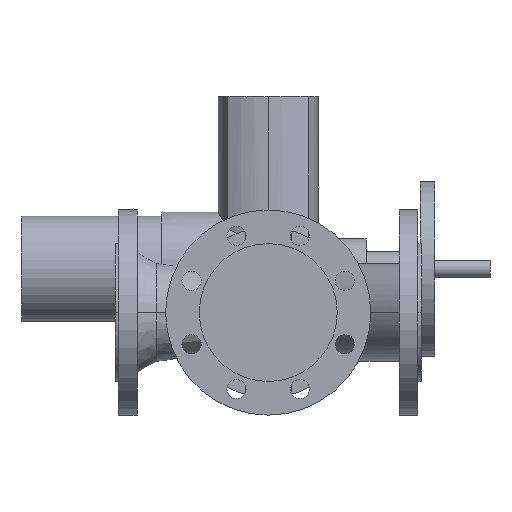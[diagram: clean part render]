
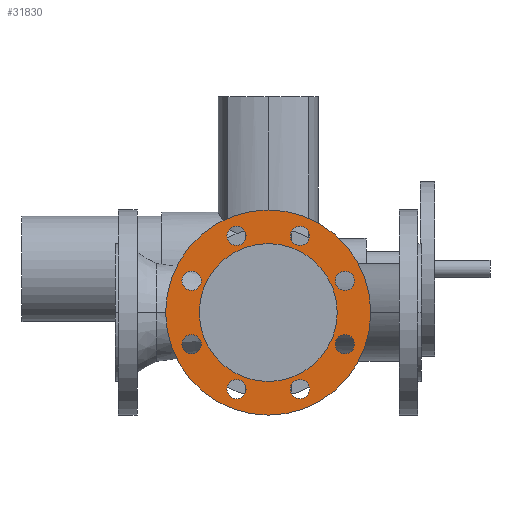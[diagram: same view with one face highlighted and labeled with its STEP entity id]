
A CAD part, front view. The second image highlights one B-rep face of the part: STEP entity #31830.
In plain terms, the highlighted planar face has unit normal (0, -1, 0).
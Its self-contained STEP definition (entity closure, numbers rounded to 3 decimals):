
#3500=CARTESIAN_POINT('',(96.,-146.5,0.));
#3510=VERTEX_POINT('',#3500);
#3560=CARTESIAN_POINT('',(175.,-146.5,0.));
#3570=DIRECTION('',(0.,-1.,0.));
#3580=DIRECTION('',(1.,0.,0.));
#3590=AXIS2_PLACEMENT_3D('',#3560,#3570,#3580);
#3600=CIRCLE('',#3590,79.);
#3610=CARTESIAN_POINT('',(254.,-146.5,0.));
#3620=VERTEX_POINT('',#3610);
#3630=EDGE_CURVE('',#3620,#3510,#3600,.T.);
#10490=CARTESIAN_POINT('',(292.5,-146.5,0.));
#10500=VERTEX_POINT('',#10490);
#10530=CARTESIAN_POINT('',(175.,-146.5,0.));
#10540=DIRECTION('',(0.,1.,0.));
#10550=DIRECTION('',(1.,0.,0.));
#10560=AXIS2_PLACEMENT_3D('',#10530,#10540,#10550);
#10570=CIRCLE('',#10560,117.5);
#10580=CARTESIAN_POINT('',(57.5,-146.5,0.));
#10590=VERTEX_POINT('',#10580);
#10600=EDGE_CURVE('',#10590,#10500,#10570,.T.);
#10910=CARTESIAN_POINT('',(251.769,-146.5,-36.355));
#10920=VERTEX_POINT('',#10910);
#11080=CARTESIAN_POINT('',(273.769,-146.5,-36.355));
#11090=VERTEX_POINT('',#11080);
#11120=CARTESIAN_POINT('',(262.769,-146.5,-36.355));
#11130=DIRECTION('',(0.,1.,0.));
#11140=DIRECTION('',(1.,0.,0.));
#11150=AXIS2_PLACEMENT_3D('',#11120,#11130,#11140);
#11160=CIRCLE('',#11150,11.);
#11170=EDGE_CURVE('',#11090,#10920,#11160,.T.);
#11330=CARTESIAN_POINT('',(251.769,-146.5,36.355));
#11340=VERTEX_POINT('',#11330);
#11370=CARTESIAN_POINT('',(262.769,-146.5,36.355));
#11380=DIRECTION('',(0.,1.,0.));
#11390=DIRECTION('',(1.,0.,0.));
#11400=AXIS2_PLACEMENT_3D('',#11370,#11380,#11390);
#11410=CIRCLE('',#11400,11.);
#11420=CARTESIAN_POINT('',(273.769,-146.5,36.355));
#11430=VERTEX_POINT('',#11420);
#11440=EDGE_CURVE('',#11340,#11430,#11410,.T.);
#11750=CARTESIAN_POINT('',(222.355,-146.5,-87.769));
#11760=VERTEX_POINT('',#11750);
#11920=CARTESIAN_POINT('',(200.355,-146.5,-87.769));
#11930=VERTEX_POINT('',#11920);
#11960=CARTESIAN_POINT('',(211.355,-146.5,-87.769));
#11970=DIRECTION('',(0.,1.,0.));
#11980=DIRECTION('',(1.,0.,0.));
#11990=AXIS2_PLACEMENT_3D('',#11960,#11970,#11980);
#12000=CIRCLE('',#11990,11.);
#12010=EDGE_CURVE('',#11930,#11760,#12000,.T.);
#12170=CARTESIAN_POINT('',(200.355,-146.5,87.769));
#12180=VERTEX_POINT('',#12170);
#12340=CARTESIAN_POINT('',(222.355,-146.5,87.769));
#12350=VERTEX_POINT('',#12340);
#12380=CARTESIAN_POINT('',(211.355,-146.5,87.769));
#12390=DIRECTION('',(0.,1.,0.));
#12400=DIRECTION('',(1.,0.,0.));
#12410=AXIS2_PLACEMENT_3D('',#12380,#12390,#12400);
#12420=CIRCLE('',#12410,11.);
#12430=EDGE_CURVE('',#12350,#12180,#12420,.T.);
#12590=CARTESIAN_POINT('',(149.645,-146.5,-87.769));
#12600=VERTEX_POINT('',#12590);
#12760=CARTESIAN_POINT('',(127.645,-146.5,-87.769));
#12770=VERTEX_POINT('',#12760);
#12800=CARTESIAN_POINT('',(138.645,-146.5,-87.769));
#12810=DIRECTION('',(0.,1.,0.));
#12820=DIRECTION('',(1.,0.,0.));
#12830=AXIS2_PLACEMENT_3D('',#12800,#12810,#12820);
#12840=CIRCLE('',#12830,11.);
#12850=EDGE_CURVE('',#12770,#12600,#12840,.T.);
#13010=CARTESIAN_POINT('',(149.645,-146.5,87.769));
#13020=VERTEX_POINT('',#13010);
#13180=CARTESIAN_POINT('',(127.645,-146.5,87.769));
#13190=VERTEX_POINT('',#13180);
#13220=CARTESIAN_POINT('',(138.645,-146.5,87.769));
#13230=DIRECTION('',(0.,1.,0.));
#13240=DIRECTION('',(1.,0.,0.));
#13250=AXIS2_PLACEMENT_3D('',#13220,#13230,#13240);
#13260=CIRCLE('',#13250,11.);
#13270=EDGE_CURVE('',#13190,#13020,#13260,.T.);
#13430=CARTESIAN_POINT('',(98.231,-146.5,-36.355));
#13440=VERTEX_POINT('',#13430);
#13470=CARTESIAN_POINT('',(87.231,-146.5,-36.355));
#13480=DIRECTION('',(0.,1.,0.));
#13490=DIRECTION('',(1.,0.,0.));
#13500=AXIS2_PLACEMENT_3D('',#13470,#13480,#13490);
#13510=CIRCLE('',#13500,11.);
#13520=CARTESIAN_POINT('',(76.231,-146.5,-36.355));
#13530=VERTEX_POINT('',#13520);
#13540=EDGE_CURVE('',#13440,#13530,#13510,.T.);
#13850=CARTESIAN_POINT('',(76.231,-146.5,36.355));
#13860=VERTEX_POINT('',#13850);
#14020=CARTESIAN_POINT('',(98.231,-146.5,36.355));
#14030=VERTEX_POINT('',#14020);
#14060=CARTESIAN_POINT('',(87.231,-146.5,36.355));
#14070=DIRECTION('',(0.,1.,0.));
#14080=DIRECTION('',(1.,0.,0.));
#14090=AXIS2_PLACEMENT_3D('',#14060,#14070,#14080);
#14100=CIRCLE('',#14090,11.);
#14110=EDGE_CURVE('',#14030,#13860,#14100,.T.);
#31280=CARTESIAN_POINT('',(175.,-146.5,0.));
#31290=DIRECTION('',(0.,1.,0.));
#31300=DIRECTION('',(0.,0.,1.));
#31310=AXIS2_PLACEMENT_3D('',#31280,#31290,#31300);
#31320=PLANE('',#31310);
#31330=EDGE_CURVE('',#13860,#14030,#14100,.T.);
#31340=ORIENTED_EDGE('',*,*,#31330,.T.);
#31350=ORIENTED_EDGE('',*,*,#14110,.T.);
#31360=EDGE_LOOP('',(#31350,#31340));
#31370=FACE_BOUND('',#31360,.T.);
#31380=EDGE_CURVE('',#13530,#13440,#13510,.T.);
#31390=ORIENTED_EDGE('',*,*,#31380,.T.);
#31400=ORIENTED_EDGE('',*,*,#13540,.T.);
#31410=EDGE_LOOP('',(#31400,#31390));
#31420=FACE_BOUND('',#31410,.T.);
#31430=EDGE_CURVE('',#13020,#13190,#13260,.T.);
#31440=ORIENTED_EDGE('',*,*,#31430,.T.);
#31450=ORIENTED_EDGE('',*,*,#13270,.T.);
#31460=EDGE_LOOP('',(#31450,#31440));
#31470=FACE_BOUND('',#31460,.T.);
#31480=EDGE_CURVE('',#12600,#12770,#12840,.T.);
#31490=ORIENTED_EDGE('',*,*,#31480,.T.);
#31500=ORIENTED_EDGE('',*,*,#12850,.T.);
#31510=EDGE_LOOP('',(#31500,#31490));
#31520=FACE_BOUND('',#31510,.T.);
#31530=EDGE_CURVE('',#12180,#12350,#12420,.T.);
#31540=ORIENTED_EDGE('',*,*,#31530,.T.);
#31550=ORIENTED_EDGE('',*,*,#12430,.T.);
#31560=EDGE_LOOP('',(#31550,#31540));
#31570=FACE_BOUND('',#31560,.T.);
#31580=EDGE_CURVE('',#11760,#11930,#12000,.T.);
#31590=ORIENTED_EDGE('',*,*,#31580,.T.);
#31600=ORIENTED_EDGE('',*,*,#12010,.T.);
#31610=EDGE_LOOP('',(#31600,#31590));
#31620=FACE_BOUND('',#31610,.T.);
#31630=ORIENTED_EDGE('',*,*,#11440,.T.);
#31640=EDGE_CURVE('',#11430,#11340,#11410,.T.);
#31650=ORIENTED_EDGE('',*,*,#31640,.T.);
#31660=EDGE_LOOP('',(#31650,#31630));
#31670=FACE_BOUND('',#31660,.T.);
#31680=EDGE_CURVE('',#10920,#11090,#11160,.T.);
#31690=ORIENTED_EDGE('',*,*,#31680,.T.);
#31700=ORIENTED_EDGE('',*,*,#11170,.T.);
#31710=EDGE_LOOP('',(#31700,#31690));
#31720=FACE_BOUND('',#31710,.T.);
#31730=ORIENTED_EDGE('',*,*,#10600,.F.);
#31740=EDGE_CURVE('',#10500,#10590,#10570,.T.);
#31750=ORIENTED_EDGE('',*,*,#31740,.F.);
#31760=EDGE_LOOP('',(#31750,#31730));
#31770=FACE_OUTER_BOUND('',#31760,.T.);
#31780=ORIENTED_EDGE('',*,*,#3630,.F.);
#31790=EDGE_CURVE('',#3510,#3620,#3600,.T.);
#31800=ORIENTED_EDGE('',*,*,#31790,.F.);
#31810=EDGE_LOOP('',(#31800,#31780));
#31820=FACE_BOUND('',#31810,.T.);
#31830=ADVANCED_FACE('',(#31370,#31420,#31470,#31520,#31570,#31620,
#31670,#31720,#31770,#31820),#31320,.F.);
